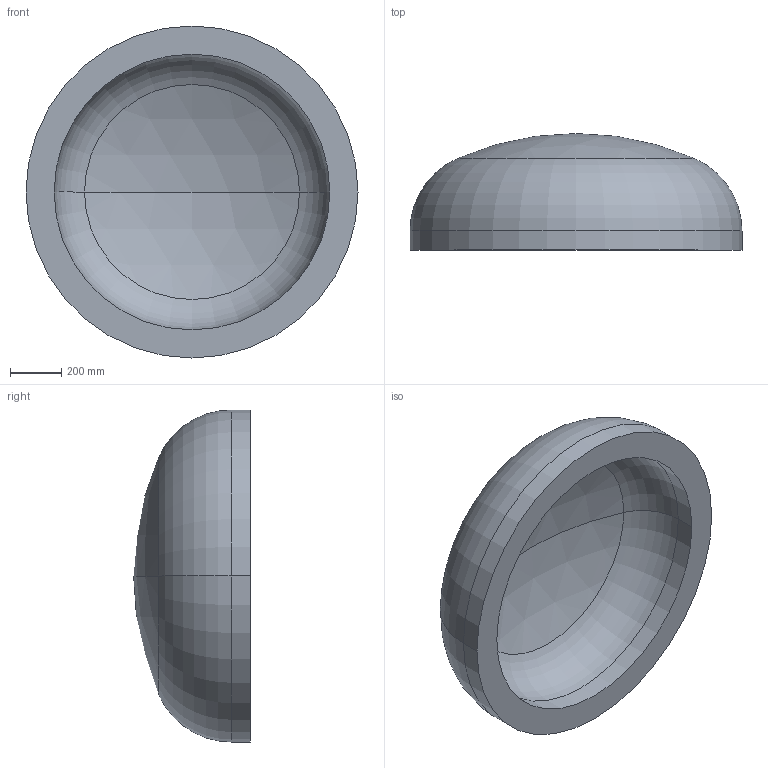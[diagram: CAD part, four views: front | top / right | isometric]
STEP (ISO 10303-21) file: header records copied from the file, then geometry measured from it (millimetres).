
FILE_DESCRIPTION (( 'STEP AP203' ), '1' );
FILE_NAME ('DIN 28013 Korbbogenform_-_Boden DIN 28013 - 1300 x 75 - I - s=110.step', '2016-07-01T10:03:25', ( '' ), ( '' ), 'SwSTEP 2.0', 'SolidWorks 2013', '' );
FILE_SCHEMA (( 'CONFIG_CONTROL_DESIGN' ));
Length unit declared in the file: millimetre
Products named in the file (1): DIN 28013 Korbbogenform_-_Boden DIN 28013 - 1300 x 75 - I - s=110
Bounding box: 1300 x 456.89 x 1300 mm (x, y, z)
Volume: 212709924.5 mm3; surface area: 4304029.1 mm2
Topology: 1 solids, 1 shells, 13 faces, 24 edges, 14 vertices
Faces by surface type: torus 4, cylinder 4, sphere 4, plane 1
Entity records: 407 total; most frequent: DIRECTION 72, CARTESIAN_POINT 52, ORIENTED_EDGE 48, AXIS2_PLACEMENT_3D 34, EDGE_CURVE 24, CIRCLE 20, EDGE_LOOP 14, VERTEX_POINT 14
